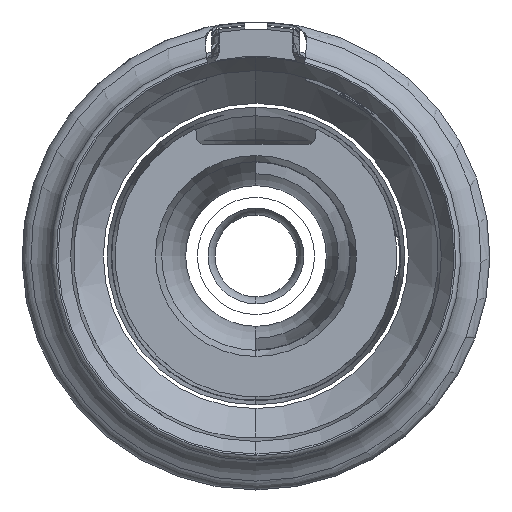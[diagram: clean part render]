
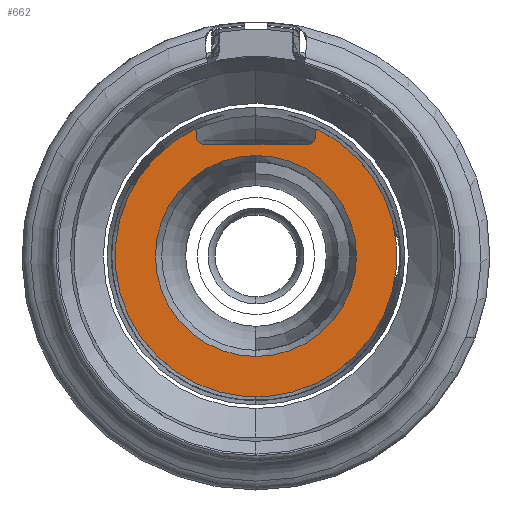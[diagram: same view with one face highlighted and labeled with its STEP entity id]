
A CAD part, front view. The second image highlights one B-rep face of the part: STEP entity #662.
In plain terms, the highlighted planar face has unit normal (0, -1, 0).
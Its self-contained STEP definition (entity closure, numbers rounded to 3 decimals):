
#397=CARTESIAN_POINT('',(0.,0.,0.));
#398=DIRECTION('',(0.,-1.,0.));
#399=DIRECTION('',(0.,0.,1.));
#400=AXIS2_PLACEMENT_3D('',#397,#398,#399);
#402=CARTESIAN_POINT('',(0.,0.,0.));
#403=DIRECTION('',(0.,-1.,0.));
#404=DIRECTION('',(0.,0.,-1.));
#405=AXIS2_PLACEMENT_3D('',#402,#403,#404);
#407=CARTESIAN_POINT('',(0.,0.,0.));
#408=DIRECTION('',(0.,1.,0.));
#409=DIRECTION('',(0.436,0.,0.9));
#410=AXIS2_PLACEMENT_3D('',#407,#408,#409);
#412=CARTESIAN_POINT('',(-4.186,0.,8.639));
#413=CARTESIAN_POINT('',(-4.179,0.,8.637));
#414=CARTESIAN_POINT('',(-4.164,0.,8.63));
#415=CARTESIAN_POINT('',(-4.143,0.,8.617));
#416=CARTESIAN_POINT('',(-4.123,0.,8.598));
#417=CARTESIAN_POINT('',(-4.104,0.,8.575));
#418=CARTESIAN_POINT('',(-4.087,0.,8.545));
#419=CARTESIAN_POINT('',(-4.073,0.,8.511));
#420=CARTESIAN_POINT('',(-4.063,0.,8.471));
#421=CARTESIAN_POINT('',(-4.056,0.,8.426));
#422=CARTESIAN_POINT('',(-4.055,0.,8.393));
#423=CARTESIAN_POINT('',(-4.055,0.,8.375));
#425=DIRECTION('',(0.,0.,-1.));
#426=VECTOR('',#425,0.275);
#427=CARTESIAN_POINT('',(-4.055,0.,8.375));
#428=LINE('',#427,#426);
#429=CARTESIAN_POINT('',(-4.055,0.,8.1));
#430=CARTESIAN_POINT('',(-4.055,0.,8.082));
#431=CARTESIAN_POINT('',(-4.052,0.,
8.045));
#432=CARTESIAN_POINT('',(-4.042,0.,7.99));
#433=CARTESIAN_POINT('',(-4.025,0.,
7.935));
#434=CARTESIAN_POINT('',(-4.,0.,
7.882));
#435=CARTESIAN_POINT('',(-3.968,0.,
7.831));
#436=CARTESIAN_POINT('',(-3.93,0.,
7.783));
#437=CARTESIAN_POINT('',(-3.884,0.,
7.739));
#438=CARTESIAN_POINT('',(-3.832,0.,
7.699));
#439=CARTESIAN_POINT('',(-3.773,0.,
7.665));
#440=CARTESIAN_POINT('',(-3.71,0.,
7.637));
#441=CARTESIAN_POINT('',(-3.643,0.,7.616));
#442=CARTESIAN_POINT('',(-3.571,0.,
7.603));
#443=CARTESIAN_POINT('',(-3.521,0.,7.6));
#444=CARTESIAN_POINT('',(-3.495,0.,7.6));
#446=DIRECTION('',(1.,0.,0.));
#447=VECTOR('',#446,6.991);
#448=CARTESIAN_POINT('',(-3.495,0.,7.6));
#449=LINE('',#448,#447);
#450=CARTESIAN_POINT('',(3.495,0.,7.6));
#451=CARTESIAN_POINT('',(3.52,0.,7.6));
#452=CARTESIAN_POINT('',(3.568,0.,7.603));
#453=CARTESIAN_POINT('',(3.639,0.,7.615));
#454=CARTESIAN_POINT('',(3.706,0.,7.635));
#455=CARTESIAN_POINT('',(3.769,0.,7.663));
#456=CARTESIAN_POINT('',(3.827,0.,
7.696));
#457=CARTESIAN_POINT('',(3.879,0.,7.735));
#458=CARTESIAN_POINT('',(3.925,0.,7.778));
#459=CARTESIAN_POINT('',(3.964,0.,
7.825));
#460=CARTESIAN_POINT('',(3.996,0.,7.875));
#461=CARTESIAN_POINT('',(4.022,0.,7.928));
#462=CARTESIAN_POINT('',(4.04,0.,7.982));
#463=CARTESIAN_POINT('',(4.052,0.,8.04));
#464=CARTESIAN_POINT('',(4.055,0.,8.08));
#465=CARTESIAN_POINT('',(4.055,0.,8.1));
#467=DIRECTION('',(0.,0.,1.));
#468=VECTOR('',#467,0.275);
#469=CARTESIAN_POINT('',(4.055,0.,8.1));
#470=LINE('',#469,#468);
#471=CARTESIAN_POINT('',(4.055,0.,8.375));
#472=CARTESIAN_POINT('',(4.055,0.,8.391));
#473=CARTESIAN_POINT('',(4.056,0.,8.421));
#474=CARTESIAN_POINT('',(4.061,0.,8.46));
#475=CARTESIAN_POINT('',(4.069,0.,8.497));
#476=CARTESIAN_POINT('',(4.08,0.,8.529));
#477=CARTESIAN_POINT('',(4.094,0.,8.557));
#478=CARTESIAN_POINT('',(4.109,0.,8.581));
#479=CARTESIAN_POINT('',(4.126,0.,8.601));
#480=CARTESIAN_POINT('',(4.144,0.,8.617));
#481=CARTESIAN_POINT('',(4.164,0.,8.63));
#482=CARTESIAN_POINT('',(4.179,0.,8.636));
#483=CARTESIAN_POINT('',(4.186,0.,8.639));
#490=CARTESIAN_POINT('',(0.,0.,6.85));
#491=CARTESIAN_POINT('',(0.,0.,-6.85));
#492=VERTEX_POINT('',#490);
#493=VERTEX_POINT('',#491);
#508=CARTESIAN_POINT('',(4.186,0.,8.639));
#509=CARTESIAN_POINT('',(-4.186,0.,8.639));
#510=VERTEX_POINT('',#508);
#511=VERTEX_POINT('',#509);
#516=VERTEX_POINT('',#423);
#517=CARTESIAN_POINT('',(-4.055,0.,8.1));
#518=VERTEX_POINT('',#517);
#519=VERTEX_POINT('',#444);
#524=CARTESIAN_POINT('',(3.495,0.,7.6));
#525=VERTEX_POINT('',#524);
#526=VERTEX_POINT('',#465);
#527=CARTESIAN_POINT('',(4.055,0.,8.375));
#528=VERTEX_POINT('',#527);
#633=CARTESIAN_POINT('',(0.,0.,0.));
#634=DIRECTION('',(0.,-1.,0.));
#635=DIRECTION('',(0.,0.,1.));
#636=AXIS2_PLACEMENT_3D('',#633,#634,#635);
#637=PLANE('',#636);
#639=ORIENTED_EDGE('',*,*,#638,.T.);
#641=ORIENTED_EDGE('',*,*,#640,.T.);
#643=ORIENTED_EDGE('',*,*,#642,.T.);
#645=ORIENTED_EDGE('',*,*,#644,.T.);
#647=ORIENTED_EDGE('',*,*,#646,.T.);
#649=ORIENTED_EDGE('',*,*,#648,.T.);
#651=ORIENTED_EDGE('',*,*,#650,.T.);
#653=ORIENTED_EDGE('',*,*,#652,.T.);
#654=EDGE_LOOP('',(#639,#641,#643,#645,#647,#649,#651,#653));
#655=FACE_OUTER_BOUND('',#654,.F.);
#657=ORIENTED_EDGE('',*,*,#656,.T.);
#659=ORIENTED_EDGE('',*,*,#658,.T.);
#660=EDGE_LOOP('',(#657,#659));
#661=FACE_BOUND('',#660,.F.);
#662=ADVANCED_FACE('',(#655,#661),#637,.T.);
#401=CIRCLE('',#400,6.85);
#406=CIRCLE('',#405,6.85);
#411=CIRCLE('',#410,9.6);
#424=B_SPLINE_CURVE_WITH_KNOTS('',3,(#412,#413,#414,#415,#416,#417,#418,#419,
#420,#421,#422,#423),.UNSPECIFIED.,.F.,.F.,(4,1,1,1,1,1,1,1,1,4),(0.,
0.111,0.222,0.333,0.444,
0.556,0.667,0.778,0.889,1.),
.UNSPECIFIED.);
#445=B_SPLINE_CURVE_WITH_KNOTS('',3,(#429,#430,#431,#432,#433,#434,#435,#436,
#437,#438,#439,#440,#441,#442,#443,#444),.UNSPECIFIED.,.F.,.F.,(4,1,1,1,1,1,1,1,
1,1,1,1,1,4),(0.,0.077,0.154,0.231,
0.308,0.385,0.462,0.538,
0.615,0.692,0.769,0.846,
0.923,1.),.UNSPECIFIED.);
#466=B_SPLINE_CURVE_WITH_KNOTS('',3,(#450,#451,#452,#453,#454,#455,#456,#457,
#458,#459,#460,#461,#462,#463,#464,#465),.UNSPECIFIED.,.F.,.F.,(4,1,1,1,1,1,1,1,
1,1,1,1,1,4),(0.,0.077,0.154,0.231,
0.308,0.385,0.462,0.538,
0.615,0.692,0.769,0.846,
0.923,1.),.UNSPECIFIED.);
#484=B_SPLINE_CURVE_WITH_KNOTS('',3,(#471,#472,#473,#474,#475,#476,#477,#478,
#479,#480,#481,#482,#483),.UNSPECIFIED.,.F.,.F.,(4,1,1,1,1,1,1,1,1,1,4),(0.,
0.1,0.2,0.3,0.4,0.5,0.6,0.7,0.8,0.9,1.),.UNSPECIFIED.);
#638=EDGE_CURVE('',#510,#511,#411,.T.);
#640=EDGE_CURVE('',#511,#516,#424,.T.);
#642=EDGE_CURVE('',#516,#518,#428,.T.);
#644=EDGE_CURVE('',#518,#519,#445,.T.);
#646=EDGE_CURVE('',#519,#525,#449,.T.);
#648=EDGE_CURVE('',#525,#526,#466,.T.);
#650=EDGE_CURVE('',#526,#528,#470,.T.);
#652=EDGE_CURVE('',#528,#510,#484,.T.);
#656=EDGE_CURVE('',#492,#493,#401,.T.);
#658=EDGE_CURVE('',#493,#492,#406,.T.);
